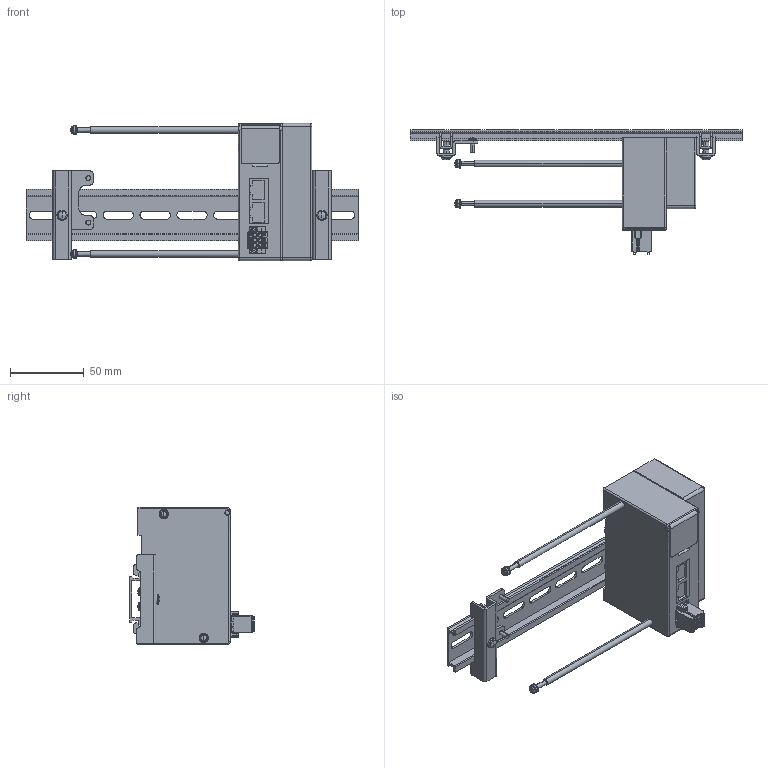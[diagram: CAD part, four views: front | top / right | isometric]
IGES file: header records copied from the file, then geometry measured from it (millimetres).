
Start section: ------------------------------------------------------------------------
Bounding box: 225 x 84.4 x 93 mm (x, y, z)
Volume: 283173 mm3; surface area: 69481.6 mm2
Topology: 4 solids, 4 shells, 1027 faces, 2703 edges, 1737 vertices
Faces by surface type: bspline 1027
